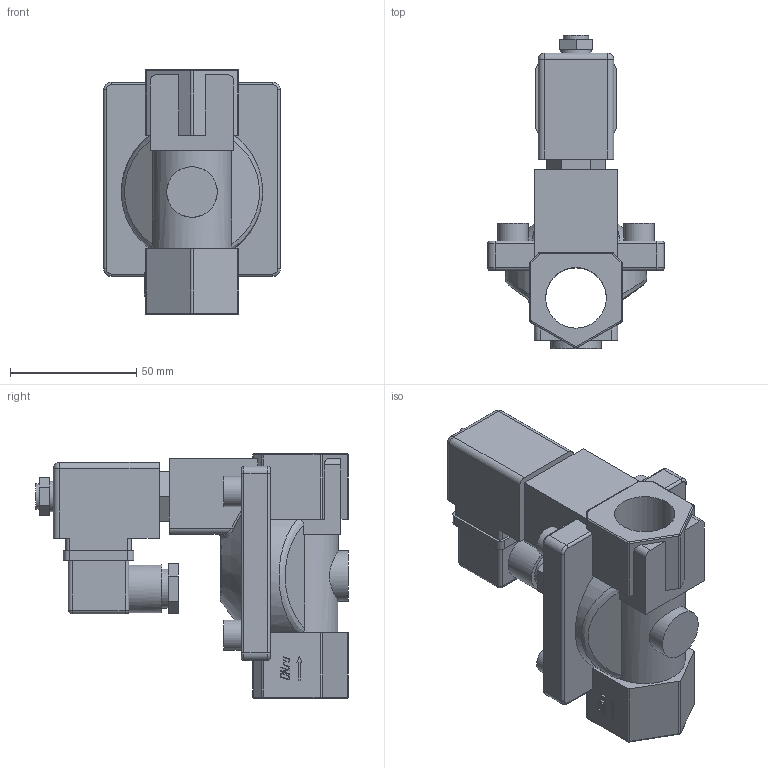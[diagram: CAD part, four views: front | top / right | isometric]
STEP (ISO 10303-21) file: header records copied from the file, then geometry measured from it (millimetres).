
FILE_DESCRIPTION(('STEP AP242'), '1');
FILE_NAME('VS400-ET-NC-24VAC 1 孰囡囗 尻蝠铎嚆龛蝽 DN.ru 捏25 畜16', '', ('UNSPECIFIED'), ('UNSPECIFIED'), 'C3D Converter', 'C3D Toolkit', '');
FILE_SCHEMA(('AP242_MANAGED_MODEL_BASED_3D_ENGINEERING_MIM_LF { 1 0 10303 442 1 1 4 }'));
Length unit declared in the file: millimetre
Products named in the file (1): VS400-ET-NC-24VAC 1
Bounding box: 70 x 124 x 97 mm (x, y, z)
Volume: 224862.3 mm3; surface area: 45071.6 mm2
Topology: 1 solids, 1 shells, 322 faces, 818 edges, 517 vertices
Faces by surface type: plane 157, cylinder 83, extrusion 40, torus 23, bspline 12, sphere 6, cone 1
Full cylindrical faces by diameter (mm): 10 x1, 12 x5, 15.5 x1, 19 x1, 20 x1, 24 x1
Entity records: 15442 total; most frequent: CARTESIAN_POINT 5307, ORIENTED_EDGE 1604, DIRECTION 1448, EDGE_CURVE 802, VECTOR 534, VERTEX_POINT 517, LINE 494, AXIS2_PLACEMENT_3D 457
